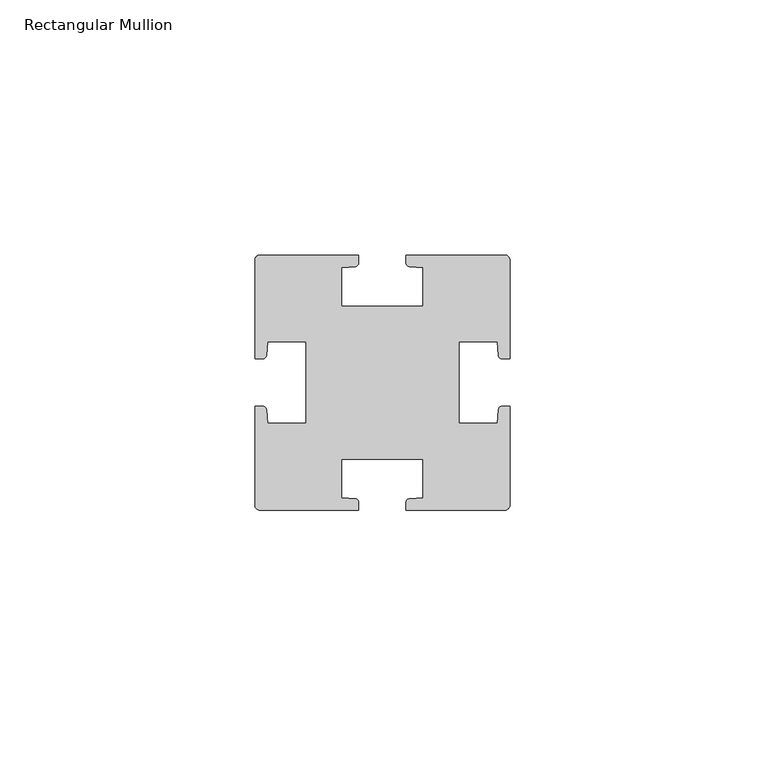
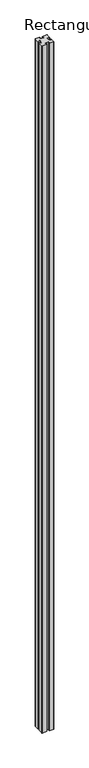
"""IFC4 building model written with IfcOpenShell, lengths in millimetres: member geometry, Rectangular Mullion : RSen_21_CWM_support profile - 50x50_duco projects."""

from ifc_helpers import new_model, si_unit, point, frame, frame_2d, origin, place, context, project, spatial, polyline, circle_curve, trimmed, segment, composite_curve, outline, extrude, source, transform, mapped, element, save


def rectangular_mullion_cd9c8af6(model_context):
    return source(origin(), model_context, "Body", "SweptSolid", [
        extrude(outline(composite_curve([segment(polyline([(25.0, -28.65), (25.0, -48.0)]), True, "CONTINUOUS"), segment(trimmed(circle_curve(frame_2d((24.0, -48.0)), 1.0), [point((25.0, -48.0))], [point((24.0, -49.0))], False, "CARTESIAN"), True, "CONTINUOUS"), segment(polyline([(24.0, -49.0), (4.65, -49.0), (4.65, -47.4527606)]), True, "CONTINUOUS"), segment(trimmed(circle_curve(frame_2d((5.35, -47.4527606)), 0.7), [point((4.65, -47.4527606))], [point((5.3011705, -46.7544657))], False, "CARTESIAN"), True, "CONTINUOUS"), segment(polyline([(5.3011705, -46.7544657), (8.0, -46.5657452), (8.0, -39.0), (-8.0, -39.0), (-8.0, -46.5657452), (-5.3011705, -46.7544657)]), True, "CONTINUOUS"), segment(trimmed(circle_curve(frame_2d((-5.35, -47.4527606)), 0.7), [point((-5.3011705, -46.7544657))], [point((-4.65, -47.4527606))], False, "CARTESIAN"), True, "CONTINUOUS"), segment(polyline([(-4.65, -47.4527606), (-4.65, -49.0), (-24.0, -49.0)]), True, "CONTINUOUS"), segment(trimmed(circle_curve(frame_2d((-24.0, -48.0)), 1.0), [point((-24.0, -49.0))], [point((-25.0, -48.0))], False, "CARTESIAN"), True, "CONTINUOUS"), segment(polyline([(-25.0, -48.0), (-25.0, -28.65), (-23.4527606, -28.65)]), True, "CONTINUOUS"), segment(trimmed(circle_curve(frame_2d((-23.4527606, -29.35)), 0.7), [point((-23.4527606, -28.65))], [point((-22.7544657, -29.3011705))], False, "CARTESIAN"), True, "CONTINUOUS"), segment(polyline([(-22.7544657, -29.3011705), (-22.5657452, -32.0), (-15.0, -32.0), (-15.0, -16.0), (-22.5657452, -16.0), (-22.7544657, -18.6988295)]), True, "CONTINUOUS"), segment(trimmed(circle_curve(frame_2d((-23.4527606, -18.65)), 0.7), [point((-22.7544657, -18.6988295))], [point((-23.4527606, -19.35))], False, "CARTESIAN"), True, "CONTINUOUS"), segment(polyline([(-23.4527606, -19.35), (-25.0, -19.35), (-25.0, 0.0)]), True, "CONTINUOUS"), segment(trimmed(circle_curve(frame_2d((-24.0, 0.0)), 1.0), [point((-25.0, 0.0))], [point((-24.0, 1.0))], False, "CARTESIAN"), True, "CONTINUOUS"), segment(polyline([(-24.0, 1.0), (-4.65, 1.0), (-4.65, -0.5472394)]), True, "CONTINUOUS"), segment(trimmed(circle_curve(frame_2d((-5.35, -0.5472394)), 0.7), [point((-4.65, -0.5472394))], [point((-5.3011705, -1.2455343))], False, "CARTESIAN"), True, "CONTINUOUS"), segment(polyline([(-5.3011705, -1.2455343), (-8.0, -1.4342548), (-8.0, -9.0), (8.0, -9.0), (8.0, -1.4342548), (5.3011705, -1.2455343)]), True, "CONTINUOUS"), segment(trimmed(circle_curve(frame_2d((5.35, -0.5472394)), 0.7), [point((5.3011705, -1.2455343))], [point((4.65, -0.5472394))], False, "CARTESIAN"), True, "CONTINUOUS"), segment(polyline([(4.65, -0.5472394), (4.65, 1.0), (24.0, 1.0)]), True, "CONTINUOUS"), segment(trimmed(circle_curve(frame_2d((24.0, 0.0)), 1.0), [point((24.0, 1.0))], [point((25.0, 0.0))], False, "CARTESIAN"), True, "CONTINUOUS"), segment(polyline([(25.0, 0.0), (25.0, -19.35), (23.4527606, -19.35)]), True, "CONTINUOUS"), segment(trimmed(circle_curve(frame_2d((23.4527606, -18.65)), 0.7), [point((23.4527606, -19.35))], [point((22.7544657, -18.6988295))], False, "CARTESIAN"), True, "CONTINUOUS"), segment(polyline([(22.7544657, -18.6988295), (22.5657452, -16.0), (15.0, -16.0), (15.0, -32.0), (22.5657452, -32.0), (22.7544657, -29.3011705)]), True, "CONTINUOUS"), segment(trimmed(circle_curve(frame_2d((23.4527606, -29.35)), 0.7), [point((22.7544657, -29.3011705))], [point((23.4527606, -28.65))], False, "CARTESIAN"), True, "CONTINUOUS"), segment(polyline([(23.4527606, -28.65), (25.0, -28.65)]), True, "CONTINUOUS")], self_intersect=False)), frame((0.0, 0.0, -3000.0), z_axis=(0.0, 0.0, 1.0), x_axis=(1.0, 0.0, 0.0)), (0.0, 0.0, 1.0), 3000.0),
    ])


if __name__ == "__main__":
    model = new_model("IFC4")
    model_context = context("Model", 3, world=origin())
    ifc_project = project(units=[si_unit("LENGTHUNIT", "METRE", prefix="MILLI")], contexts=[model_context])
    site = spatial("IfcSite", under=ifc_project)
    building = spatial("IfcBuilding", under=site)
    placement = place(None, origin())
    rectangular_mullion_shape = rectangular_mullion_cd9c8af6(model_context)
    element("IfcMember", 1, ObjectType="Rectangular Mullion : RSen_21_CWM_support profile - 50x50_duco projects", at=placement, inside=building, context=model_context, shape_type="MappedRepresentation", body=[
        mapped(rectangular_mullion_shape, transform((0.0, 0.0, 0.0), x_axis=(1.0, 0.0, 0.0), y_axis=(0.0, 1.0, 0.0), z_axis=(0.0, 0.0, 1.0))),
    ])
    save(model, "model.ifc")
